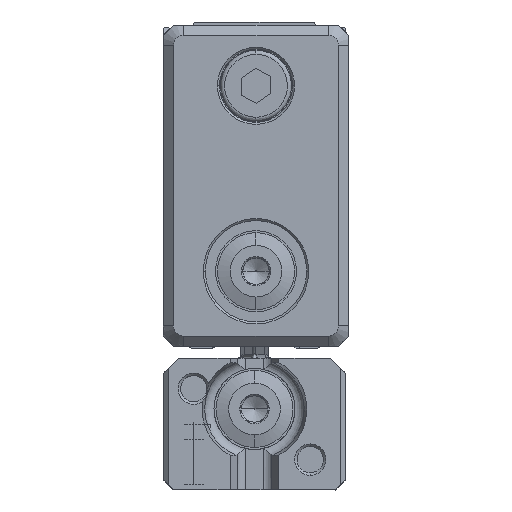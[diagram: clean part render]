
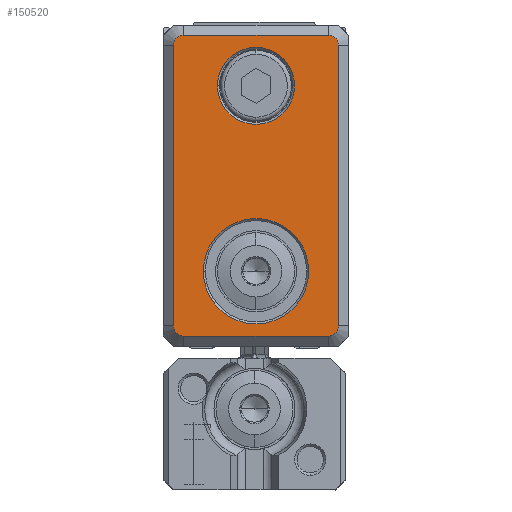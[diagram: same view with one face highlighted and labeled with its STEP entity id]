
A CAD part, left-side view. The second image highlights one B-rep face of the part: STEP entity #150520.
In plain terms, the highlighted planar face has unit normal (-1, 0, 0).
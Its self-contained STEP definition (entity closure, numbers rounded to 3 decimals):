
#131050=CARTESIAN_POINT('',(-227.138,43.35,
-56.983));
#131060=VERTEX_POINT('',#131050);
#131090=CARTESIAN_POINT('',(-227.138,38.15,
-56.983));
#131100=DIRECTION('',(1.,0.,0.));
#131110=DIRECTION('',(0.,-1.,0.));
#131120=AXIS2_PLACEMENT_3D('',#131090,#131100,#131110);
#131130=CIRCLE('',#131120,5.2);
#131140=CARTESIAN_POINT('',(-227.138,32.95,
-56.983));
#131150=VERTEX_POINT('',#131140);
#131160=EDGE_CURVE('',#131060,#131150,#131130,.T.);
#133950=CARTESIAN_POINT('',(-227.138,46.3,
-79.283));
#133960=VERTEX_POINT('',#133950);
#134010=CARTESIAN_POINT('',(-227.138,45.3,
-79.283));
#134020=DIRECTION('',(1.,0.,0.));
#134030=DIRECTION('',(0.,1.,0.));
#134040=AXIS2_PLACEMENT_3D('',#134010,#134020,#134030);
#134050=CIRCLE('',#134040,1.);
#134060=CARTESIAN_POINT('',(-227.138,45.3,
-80.283));
#134070=VERTEX_POINT('',#134060);
#134080=EDGE_CURVE('',#134070,#133960,#134050,.T.);
#135070=CARTESIAN_POINT('',(-227.138,31.,
-50.583));
#135080=VERTEX_POINT('',#135070);
#135890=CARTESIAN_POINT('',(-227.138,30.,
-51.583));
#135900=VERTEX_POINT('',#135890);
#135930=CARTESIAN_POINT('',(-227.138,31.,
-51.583));
#135940=DIRECTION('',(1.,0.,0.));
#135950=DIRECTION('',(0.,1.,0.));
#135960=AXIS2_PLACEMENT_3D('',#135930,#135940,#135950);
#135970=CIRCLE('',#135960,1.);
#135980=EDGE_CURVE('',#135080,#135900,#135970,.T.);
#148650=CARTESIAN_POINT('',(-227.138,41.95,
-75.283));
#148660=VERTEX_POINT('',#148650);
#148820=CARTESIAN_POINT('',(-227.138,34.35,
-75.283));
#148830=VERTEX_POINT('',#148820);
#148860=CARTESIAN_POINT('',(-227.138,38.15,
-75.283));
#148870=DIRECTION('',(-1.,0.,0.));
#148880=DIRECTION('',(0.,1.,0.));
#148890=AXIS2_PLACEMENT_3D('',#148860,#148870,#148880);
#148900=CIRCLE('',#148890,3.8);
#148910=EDGE_CURVE('',#148660,#148830,#148900,.T.);
#149870=CARTESIAN_POINT('',(-227.138,38.15,
-65.583));
#149880=DIRECTION('',(1.,0.,0.));
#149890=DIRECTION('',(0.,1.,0.));
#149900=AXIS2_PLACEMENT_3D('',#149870,#149880,#149890);
#149910=PLANE('',#149900);
#149920=EDGE_CURVE('',#131150,#131060,#131130,.T.);
#149930=ORIENTED_EDGE('',*,*,#149920,.T.);
#149940=ORIENTED_EDGE('',*,*,#131160,.T.);
#149950=EDGE_LOOP('',(#149940,#149930));
#149960=FACE_BOUND('',#149950,.T.);
#149970=EDGE_CURVE('',#148830,#148660,#148900,.T.);
#149980=ORIENTED_EDGE('',*,*,#149970,.F.);
#149990=ORIENTED_EDGE('',*,*,#148910,.F.);
#150000=EDGE_LOOP('',(#149990,#149980));
#150010=FACE_BOUND('',#150000,.T.);
#150020=CARTESIAN_POINT('',(-227.138,46.75,
-80.283));
#150030=DIRECTION('',(0.,-1.,0.));
#150040=VECTOR('',#150030,1.);
#150050=LINE('',#150020,#150040);
#150060=CARTESIAN_POINT('',(-227.138,31.,
-80.283));
#150070=VERTEX_POINT('',#150060);
#150080=EDGE_CURVE('',#134070,#150070,#150050,.T.);
#150090=ORIENTED_EDGE('',*,*,#150080,.T.);
#150100=ORIENTED_EDGE('',*,*,#134080,.F.);
#150110=CARTESIAN_POINT('',(-227.138,46.3,
-49.133));
#150120=DIRECTION('',(0.,0.,-1.));
#150130=VECTOR('',#150120,1.);
#150140=LINE('',#150110,#150130);
#150150=CARTESIAN_POINT('',(-227.138,46.3,
-51.583));
#150160=VERTEX_POINT('',#150150);
#150170=EDGE_CURVE('',#150160,#133960,#150140,.T.);
#150180=ORIENTED_EDGE('',*,*,#150170,.T.);
#150190=CARTESIAN_POINT('',(-227.138,45.3,
-51.583));
#150200=DIRECTION('',(1.,0.,0.));
#150210=DIRECTION('',(0.,1.,0.));
#150220=AXIS2_PLACEMENT_3D('',#150190,#150200,#150210);
#150230=CIRCLE('',#150220,1.);
#150240=CARTESIAN_POINT('',(-227.138,45.3,
-50.583));
#150250=VERTEX_POINT('',#150240);
#150260=EDGE_CURVE('',#150160,#150250,#150230,.T.);
#150270=ORIENTED_EDGE('',*,*,#150260,.F.);
#150280=CARTESIAN_POINT('',(-227.138,46.75,
-50.583));
#150290=DIRECTION('',(0.,1.,0.));
#150300=VECTOR('',#150290,1.);
#150310=LINE('',#150280,#150300);
#150320=EDGE_CURVE('',#135080,#150250,#150310,.T.);
#150330=ORIENTED_EDGE('',*,*,#150320,.T.);
#150340=ORIENTED_EDGE('',*,*,#135980,.F.);
#150350=CARTESIAN_POINT('',(-227.138,30.,
-49.133));
#150360=DIRECTION('',(0.,0.,1.));
#150370=VECTOR('',#150360,1.);
#150380=LINE('',#150350,#150370);
#150390=CARTESIAN_POINT('',(-227.138,30.,
-79.283));
#150400=VERTEX_POINT('',#150390);
#150410=EDGE_CURVE('',#150400,#135900,#150380,.T.);
#150420=ORIENTED_EDGE('',*,*,#150410,.T.);
#150430=CARTESIAN_POINT('',(-227.138,31.,
-79.283));
#150440=DIRECTION('',(1.,0.,0.));
#150450=DIRECTION('',(0.,1.,0.));
#150460=AXIS2_PLACEMENT_3D('',#150430,#150440,#150450);
#150470=CIRCLE('',#150460,1.);
#150480=EDGE_CURVE('',#150400,#150070,#150470,.T.);
#150490=ORIENTED_EDGE('',*,*,#150480,.F.);
#150500=EDGE_LOOP('',(#150490,#150420,#150340,#150330,#150270,#150180,
#150100,#150090));
#150510=FACE_OUTER_BOUND('',#150500,.T.);
#150520=ADVANCED_FACE('',(#149960,#150010,#150510),#149910,.F.);
